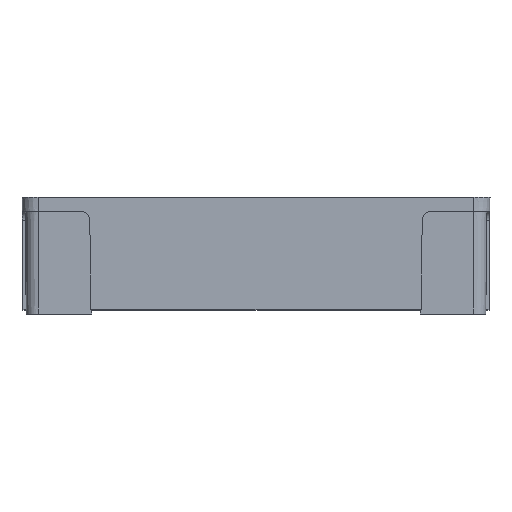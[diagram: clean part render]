
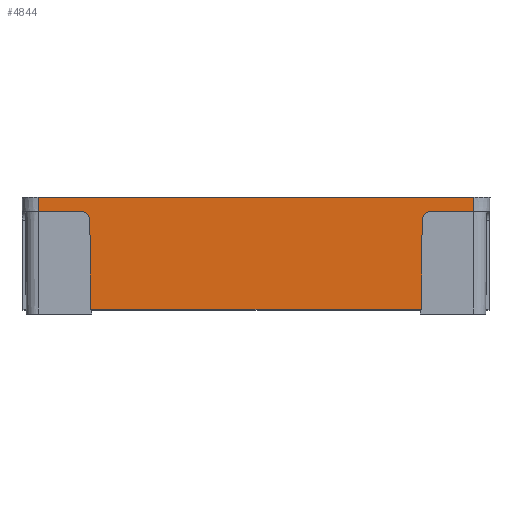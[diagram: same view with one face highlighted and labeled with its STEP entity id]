
A CAD part, top view. The second image highlights one B-rep face of the part: STEP entity #4844.
In plain terms, the highlighted planar face has unit normal (0, -0.009, 1).
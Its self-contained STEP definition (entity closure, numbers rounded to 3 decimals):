
#59 = CARTESIAN_POINT ( 'NONE',  ( -46.55, 0., 50.05 ) ) ;
#60 = AXIS2_PLACEMENT_3D ( 'NONE', #59, #114, #113 ) ;
#61 = PLANE ( 'NONE',  #60 ) ;
#62 = FACE_OUTER_BOUND ( 'NONE', #4845, .T. ) ;
#63 = DIRECTION ( 'NONE',  ( 0., 1., 0.009 ) ) ;
#64 = VECTOR ( 'NONE', #63, 1000. ) ;
#65 = CARTESIAN_POINT ( 'NONE',  ( 46.55, 0., 50.05 ) ) ;
#66 = LINE ( 'NONE', #65, #64 ) ;
#67 = CARTESIAN_POINT ( 'NONE',  ( 46.55, 0., 50.05 ) ) ;
#73 = CARTESIAN_POINT ( 'NONE',  ( 46.55, -3., 50.024 ) ) ;
#92 = CARTESIAN_POINT ( 'NONE',  ( -46.55, -3., 50.024 ) ) ;
#93 = LINE ( 'NONE', #92, #138 ) ;
#94 = DIRECTION ( 'NONE',  ( 1., 0., 0. ) ) ;
#95 = VECTOR ( 'NONE', #94, 1000. ) ;
#96 = CARTESIAN_POINT ( 'NONE',  ( -46.55, 0., 50.05 ) ) ;
#97 = LINE ( 'NONE', #96, #95 ) ;
#98 = DIRECTION ( 'NONE',  ( -1., 0., 0. ) ) ;
#99 = VECTOR ( 'NONE', #98, 1000. ) ;
#100 = CARTESIAN_POINT ( 'NONE',  ( -46.55, -3., 50.024 ) ) ;
#101 = CARTESIAN_POINT ( 'NONE',  ( 37.533, -3., 50.024 ) ) ;
#102 = CARTESIAN_POINT ( 'NONE',  ( 36.369, -3., 50.024 ) ) ;
#103 = CARTESIAN_POINT ( 'NONE',  ( 35.543, -3.819, 50.017 ) ) ;
#104 = CARTESIAN_POINT ( 'NONE',  ( 35.533, -4.983, 50.007 ) ) ;
#105 =( BOUNDED_CURVE ( )  B_SPLINE_CURVE ( 3, ( #104, #103, #102, #101 ),
 .UNSPECIFIED., .F., .T. ) 
 B_SPLINE_CURVE_WITH_KNOTS ( ( 4, 4 ),
 ( 1.58, 3.142 ),
 .UNSPECIFIED. ) 
 CURVE ( )  GEOMETRIC_REPRESENTATION_ITEM ( )  RATIONAL_B_SPLINE_CURVE ( ( 1., 0.807, 0.807, 1. ) ) 
 REPRESENTATION_ITEM ( '' )  );
#106 = LINE ( 'NONE', #100, #99 ) ;
#107 = CARTESIAN_POINT ( 'NONE',  ( 37.533, -3., 50.024 ) ) ;
#108 = CARTESIAN_POINT ( 'NONE',  ( 35.533, -4.983, 50.007 ) ) ;
#109 = DIRECTION ( 'NONE',  ( -0.009, -1., -0.009 ) ) ;
#110 = VECTOR ( 'NONE', #109, 1000. ) ;
#111 = CARTESIAN_POINT ( 'NONE',  ( 35.57, -0.717, 50.044 ) ) ;
#112 = LINE ( 'NONE', #111, #110 ) ;
#113 = DIRECTION ( 'NONE',  ( 0., -1., -0.009 ) ) ;
#114 = DIRECTION ( 'NONE',  ( 0., -0.009, 1. ) ) ;
#126 = DIRECTION ( 'NONE',  ( -0.009, 1., 0.009 ) ) ;
#127 = VECTOR ( 'NONE', #126, 1000. ) ;
#128 = CARTESIAN_POINT ( 'NONE',  ( -35.577, 0.096, 50.051 ) ) ;
#129 = CARTESIAN_POINT ( 'NONE',  ( -35.533, -4.983, 50.007 ) ) ;
#130 = CARTESIAN_POINT ( 'NONE',  ( -35.543, -3.819, 50.017 ) ) ;
#131 = CARTESIAN_POINT ( 'NONE',  ( -36.369, -3., 50.024 ) ) ;
#132 = CARTESIAN_POINT ( 'NONE',  ( -37.533, -3., 50.024 ) ) ;
#133 =( BOUNDED_CURVE ( )  B_SPLINE_CURVE ( 3, ( #132, #131, #130, #129 ),
 .UNSPECIFIED., .F., .T. ) 
 B_SPLINE_CURVE_WITH_KNOTS ( ( 4, 4 ),
 ( 3.142, 4.704 ),
 .UNSPECIFIED. ) 
 CURVE ( )  GEOMETRIC_REPRESENTATION_ITEM ( )  RATIONAL_B_SPLINE_CURVE ( ( 1., 0.807, 0.807, 1. ) ) 
 REPRESENTATION_ITEM ( '' )  );
#134 = LINE ( 'NONE', #128, #127 ) ;
#135 = CARTESIAN_POINT ( 'NONE',  ( -35.533, -4.983, 50.007 ) ) ;
#136 = CARTESIAN_POINT ( 'NONE',  ( -37.533, -3., 50.024 ) ) ;
#137 = DIRECTION ( 'NONE',  ( 1., 0., 0. ) ) ;
#138 = VECTOR ( 'NONE', #137, 1000. ) ;
#2373 = VERTEX_POINT ( 'NONE', #7851 ) ;
#2385 = EDGE_CURVE ( 'NONE', #2388, #2373, #7832, .T. ) ;
#2388 = VERTEX_POINT ( 'NONE', #7827 ) ;
#2468 = VERTEX_POINT ( 'NONE', #7958 ) ;
#2472 = VERTEX_POINT ( 'NONE', #8022 ) ;
#2541 = EDGE_CURVE ( 'NONE', #2472, #2468, #8121, .T. ) ;
#4837 = VERTEX_POINT ( 'NONE', #73 ) ;
#4841 = VERTEX_POINT ( 'NONE', #67 ) ;
#4843 = EDGE_CURVE ( 'NONE', #4837, #4841, #66, .T. ) ;
#4844 = ADVANCED_FACE ( 'NONE', ( #62 ), #61, .T. ) ;
#4845 = EDGE_LOOP ( 'NONE', ( #4846, #4849, #4852, #4854, #4855, #4857, #4858, #4861, #4864, #4866 ) ) ;
#4846 = ORIENTED_EDGE ( 'NONE', *, *, #4847, .F. ) ;
#4847 = EDGE_CURVE ( 'NONE', #4848, #2373, #112, .T. ) ;
#4848 = VERTEX_POINT ( 'NONE', #108 ) ;
#4849 = ORIENTED_EDGE ( 'NONE', *, *, #4850, .T. ) ;
#4850 = EDGE_CURVE ( 'NONE', #4848, #4851, #105, .T. ) ;
#4851 = VERTEX_POINT ( 'NONE', #107 ) ;
#4852 = ORIENTED_EDGE ( 'NONE', *, *, #4853, .F. ) ;
#4853 = EDGE_CURVE ( 'NONE', #4837, #4851, #106, .T. ) ;
#4854 = ORIENTED_EDGE ( 'NONE', *, *, #4843, .T. ) ;
#4855 = ORIENTED_EDGE ( 'NONE', *, *, #4856, .F. ) ;
#4856 = EDGE_CURVE ( 'NONE', #2468, #4841, #97, .T. ) ;
#4857 = ORIENTED_EDGE ( 'NONE', *, *, #2541, .F. ) ;
#4858 = ORIENTED_EDGE ( 'NONE', *, *, #4859, .T. ) ;
#4859 = EDGE_CURVE ( 'NONE', #2472, #4860, #93, .T. ) ;
#4860 = VERTEX_POINT ( 'NONE', #136 ) ;
#4861 = ORIENTED_EDGE ( 'NONE', *, *, #4862, .T. ) ;
#4862 = EDGE_CURVE ( 'NONE', #4860, #4863, #133, .T. ) ;
#4863 = VERTEX_POINT ( 'NONE', #135 ) ;
#4864 = ORIENTED_EDGE ( 'NONE', *, *, #4865, .F. ) ;
#4865 = EDGE_CURVE ( 'NONE', #2388, #4863, #134, .T. ) ;
#4866 = ORIENTED_EDGE ( 'NONE', *, *, #2385, .T. ) ;
#7827 = CARTESIAN_POINT ( 'NONE',  ( -35.367, -24., 49.841 ) ) ;
#7829 = DIRECTION ( 'NONE',  ( 1., 0., 0. ) ) ;
#7830 = VECTOR ( 'NONE', #7829, 1000. ) ;
#7831 = CARTESIAN_POINT ( 'NONE',  ( -46.55, -24., 49.841 ) ) ;
#7832 = LINE ( 'NONE', #7831, #7830 ) ;
#7851 = CARTESIAN_POINT ( 'NONE',  ( 35.367, -24., 49.841 ) ) ;
#7958 = CARTESIAN_POINT ( 'NONE',  ( -46.55, 0., 50.05 ) ) ;
#8022 = CARTESIAN_POINT ( 'NONE',  ( -46.55, -3., 50.024 ) ) ;
#8118 = DIRECTION ( 'NONE',  ( 0., 1., 0.009 ) ) ;
#8119 = VECTOR ( 'NONE', #8118, 1000. ) ;
#8120 = CARTESIAN_POINT ( 'NONE',  ( -46.55, 0., 50.05 ) ) ;
#8121 = LINE ( 'NONE', #8120, #8119 ) ;
